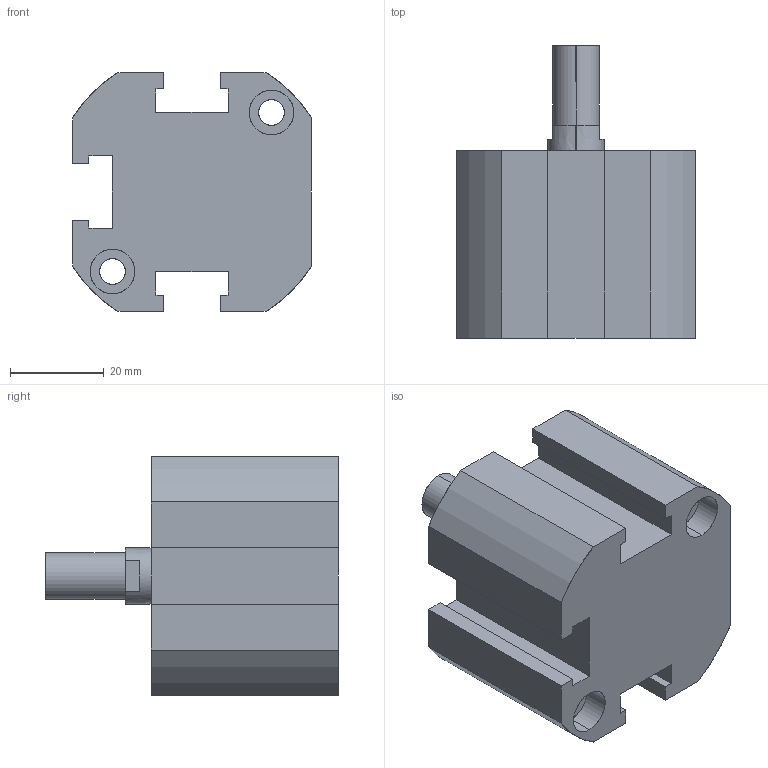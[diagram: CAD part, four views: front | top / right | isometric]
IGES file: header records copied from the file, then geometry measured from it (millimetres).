
Start section: SolidWorks IGES file using analytic representation for surfaces
Global section: file name: C:\Users\Toshiba\Desktop\XC#M2-32D-10.IGS; native system: SolidWorks 2014; preprocessor: SolidWorks 2014; author: Toshiba; date: 160523.164505; units: millimetre
Bounding box: 51 x 62.5 x 51 mm (x, y, z)
Surface area: 17624.6 mm2 (no closed solid volume)
Topology: 0 solids, 0 shells, 98 faces, 1532 edges, 1528 vertices
Faces by surface type: revolution 50, bspline 48
